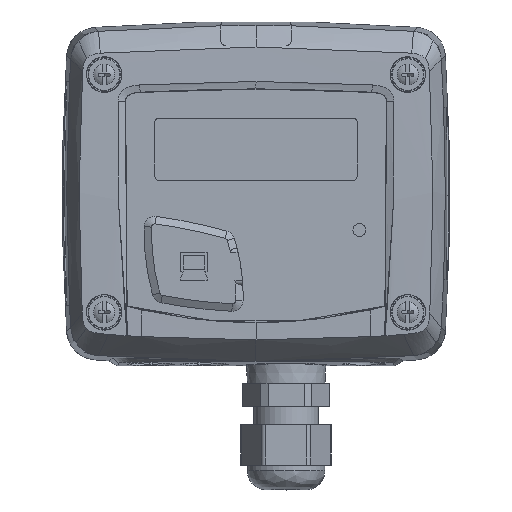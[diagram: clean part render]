
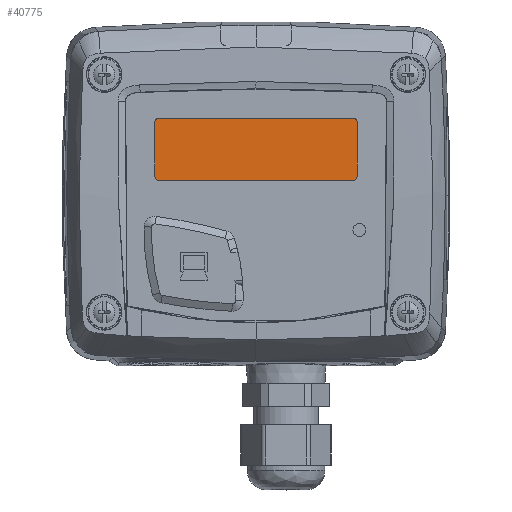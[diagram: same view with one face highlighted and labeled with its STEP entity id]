
A CAD part, top view. The second image highlights one B-rep face of the part: STEP entity #40775.
In plain terms, the highlighted planar face has unit normal (0, 0, 1).
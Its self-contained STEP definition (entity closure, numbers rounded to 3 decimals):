
#9864=DIRECTION('',(-1.,0.,0.));
#9865=VECTOR('',#9864,45.);
#9866=CARTESIAN_POINT('',(22.5,17.5,25.45));
#9867=LINE('',#9866,#9865);
#9872=CARTESIAN_POINT('',(22.5,16.5,25.45));
#9873=DIRECTION('',(0.,0.,-1.));
#9874=DIRECTION('',(0.,1.,0.));
#9875=AXIS2_PLACEMENT_3D('',#9872,#9873,#9874);
#9881=DIRECTION('',(0.,1.,0.));
#9882=VECTOR('',#9881,12.5);
#9883=CARTESIAN_POINT('',(23.5,4.,25.45));
#9884=LINE('',#9883,#9882);
#9889=CARTESIAN_POINT('',(22.5,4.,25.45));
#9890=DIRECTION('',(0.,0.,-1.));
#9891=DIRECTION('',(1.,0.,0.));
#9892=AXIS2_PLACEMENT_3D('',#9889,#9890,#9891);
#9898=DIRECTION('',(1.,0.,0.));
#9899=VECTOR('',#9898,45.);
#9900=CARTESIAN_POINT('',(-22.5,3.,25.45));
#9901=LINE('',#9900,#9899);
#9906=CARTESIAN_POINT('',(-22.5,4.,25.45));
#9907=DIRECTION('',(0.,0.,-1.));
#9908=DIRECTION('',(0.,-1.,0.));
#9909=AXIS2_PLACEMENT_3D('',#9906,#9907,#9908);
#9915=DIRECTION('',(0.,-1.,0.));
#9916=VECTOR('',#9915,12.5);
#9917=CARTESIAN_POINT('',(-23.5,16.5,25.45));
#9918=LINE('',#9917,#9916);
#9923=CARTESIAN_POINT('',(-22.5,16.5,25.45));
#9924=DIRECTION('',(0.,0.,-1.));
#9925=DIRECTION('',(-1.,0.,0.));
#9926=AXIS2_PLACEMENT_3D('',#9923,#9924,#9925);
#25475=CARTESIAN_POINT('',(22.5,17.5,25.45));
#25476=CARTESIAN_POINT('',(-22.5,17.5,25.45));
#25477=VERTEX_POINT('',#25475);
#25478=VERTEX_POINT('',#25476);
#25479=CARTESIAN_POINT('',(23.5,16.5,25.45));
#25480=VERTEX_POINT('',#25479);
#25481=CARTESIAN_POINT('',(23.5,4.,25.45));
#25482=VERTEX_POINT('',#25481);
#25483=CARTESIAN_POINT('',(22.5,3.,25.45));
#25484=VERTEX_POINT('',#25483);
#25485=CARTESIAN_POINT('',(-22.5,3.,25.45));
#25486=VERTEX_POINT('',#25485);
#25487=CARTESIAN_POINT('',(-23.5,4.,25.45));
#25488=VERTEX_POINT('',#25487);
#25489=CARTESIAN_POINT('',(-23.5,16.5,25.45));
#25490=VERTEX_POINT('',#25489);
#40753=CARTESIAN_POINT('',(0.,0.,25.45));
#40754=DIRECTION('',(0.,0.,1.));
#40755=DIRECTION('',(1.,0.,0.));
#40756=AXIS2_PLACEMENT_3D('',#40753,#40754,#40755);
#40757=PLANE('',#40756);
#40758=ORIENTED_EDGE('',*,*,#40743,.F.);
#40760=ORIENTED_EDGE('',*,*,#40759,.T.);
#40762=ORIENTED_EDGE('',*,*,#40761,.F.);
#40764=ORIENTED_EDGE('',*,*,#40763,.T.);
#40766=ORIENTED_EDGE('',*,*,#40765,.F.);
#40768=ORIENTED_EDGE('',*,*,#40767,.T.);
#40770=ORIENTED_EDGE('',*,*,#40769,.F.);
#40772=ORIENTED_EDGE('',*,*,#40771,.T.);
#40773=EDGE_LOOP('',(#40758,#40760,#40762,#40764,#40766,#40768,#40770,#40772));
#40774=FACE_OUTER_BOUND('',#40773,.F.);
#9876=CIRCLE('',#9875,1.);
#9893=CIRCLE('',#9892,1.);
#9910=CIRCLE('',#9909,1.);
#9927=CIRCLE('',#9926,1.);
#40743=EDGE_CURVE('',#25477,#25478,#9867,.T.);
#40759=EDGE_CURVE('',#25477,#25480,#9876,.T.);
#40761=EDGE_CURVE('',#25482,#25480,#9884,.T.);
#40763=EDGE_CURVE('',#25482,#25484,#9893,.T.);
#40765=EDGE_CURVE('',#25486,#25484,#9901,.T.);
#40767=EDGE_CURVE('',#25486,#25488,#9910,.T.);
#40769=EDGE_CURVE('',#25490,#25488,#9918,.T.);
#40771=EDGE_CURVE('',#25490,#25478,#9927,.T.);
#40775=ADVANCED_FACE('',(#40774),#40757,.T.);
